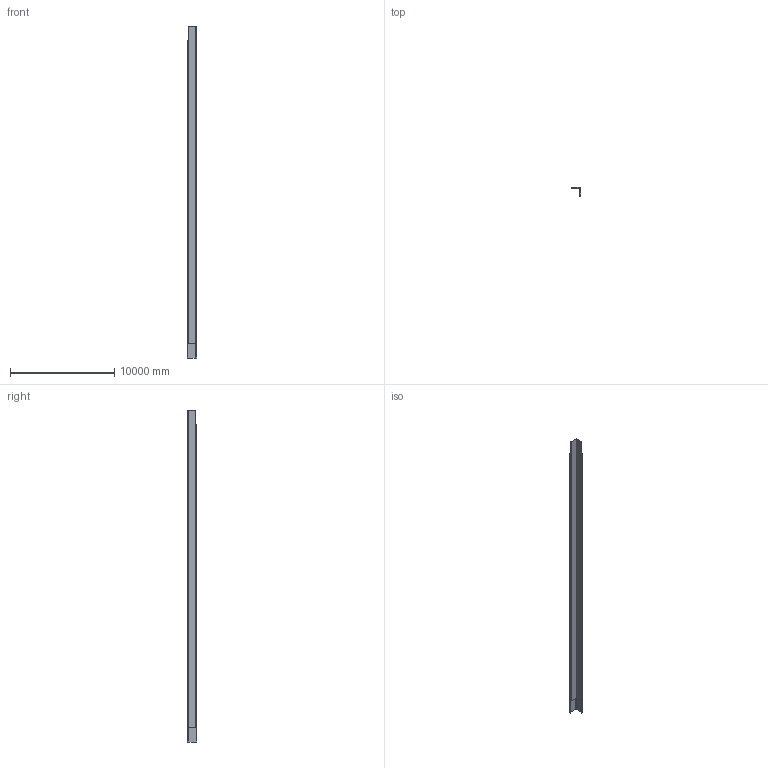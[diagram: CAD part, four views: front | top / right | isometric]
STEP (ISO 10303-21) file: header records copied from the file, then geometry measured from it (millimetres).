
FILE_DESCRIPTION(/* description */ (''),/* implementation_level */ '2;1');
FILE_NAME(/* name */ 'C:\Users\Utilisateur\Mac Metal\Site de communication - Documents\Ingénierie\1. Dessins techniques produits Mac\CAD_REVIT Molding drawing-MAC\Versa _ Metal Block\M20G\M20G ASSEMBLY.stp',/* time_stamp */ '2023-02-08T11:41:54-05:00',/* author */ ('Utilisateur'),/* organization */ (''),/* preprocessor_version */ 'ST-DEVELOPER v18.1',/* originating_system */ 'Autodesk Inventor 2022',/* authorisation */ '');
FILE_SCHEMA (('AUTOMOTIVE_DESIGN { 1 0 10303 214 3 1 1 }'));
Length unit declared in the file: centimetre
Products named in the file (1): M20G ASSEMBLY
Bounding box: 873.12 x 873.12 x 31870.07 mm (x, y, z)
Volume: 534012352.3 mm3; surface area: 210895477.4 mm2
Topology: 2 solids, 2 shells, 38 faces, 102 edges, 68 vertices
Faces by surface type: plane 28, cylinder 10
Entity records: 1226 total; most frequent: CARTESIAN_POINT 209, ORIENTED_EDGE 204, DIRECTION 200, EDGE_CURVE 102, LINE 82, VECTOR 82, VERTEX_POINT 68, AXIS2_PLACEMENT_3D 59
